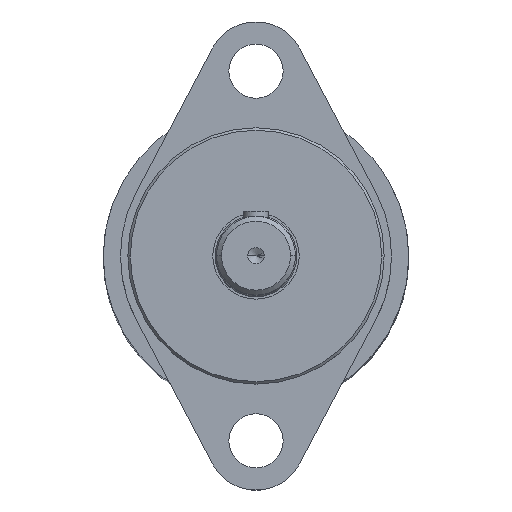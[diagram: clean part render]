
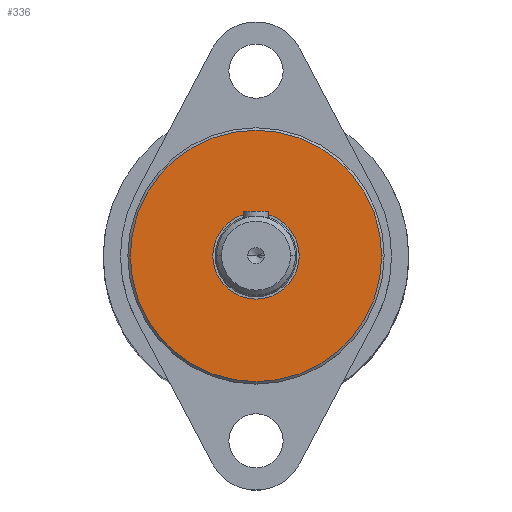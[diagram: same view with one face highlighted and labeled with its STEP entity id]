
A CAD part, top view. The second image highlights one B-rep face of the part: STEP entity #336.
In plain terms, the highlighted planar face has unit normal (0, 0, 1).
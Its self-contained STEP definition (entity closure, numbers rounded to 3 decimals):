
#9 = CARTESIAN_POINT ( 'NONE',  ( 25.5, 0., -31.5 ) ) ;
#15 = ORIENTED_EDGE ( 'NONE', *, *, #338, .F. ) ;
#80 = AXIS2_PLACEMENT_3D ( 'NONE', #1081, #1232, #1785 ) ;
#110 = DIRECTION ( 'NONE',  ( 0., 0., 1. ) ) ;
#158 = DIRECTION ( 'NONE',  ( 0., 0., 1. ) ) ;
#226 = EDGE_LOOP ( 'NONE', ( #15, #1332 ) ) ;
#283 = AXIS2_PLACEMENT_3D ( 'NONE', #484, #1462, #631 ) ;
#302 = DIRECTION ( 'NONE',  ( 0., 0., 1. ) ) ;
#316 = AXIS2_PLACEMENT_3D ( 'NONE', #1029, #158, #1289 ) ;
#327 = CARTESIAN_POINT ( 'NONE',  ( 0., 0., -31.5 ) ) ;
#336 = ADVANCED_FACE ( 'NONE', ( #1135, #1558 ), #948, .F. ) ;
#338 = EDGE_CURVE ( 'NONE', #486, #1313, #804, .T. ) ;
#419 = CARTESIAN_POINT ( 'NONE',  ( 8.766, 0., -31.5 ) ) ;
#444 = VERTEX_POINT ( 'NONE', #551 ) ;
#484 = CARTESIAN_POINT ( 'NONE',  ( 0., 0., -31.5 ) ) ;
#486 = VERTEX_POINT ( 'NONE', #419 ) ;
#551 = CARTESIAN_POINT ( 'NONE',  ( -25.5, 0., -31.5 ) ) ;
#585 = CIRCLE ( 'NONE', #283, 25.5 ) ;
#588 = DIRECTION ( 'NONE',  ( 1., 0., 0. ) ) ;
#631 = DIRECTION ( 'NONE',  ( 1., 0., 0. ) ) ;
#688 = AXIS2_PLACEMENT_3D ( 'NONE', #327, #302, #588 ) ;
#758 = AXIS2_PLACEMENT_3D ( 'NONE', #1506, #110, #1091 ) ;
#804 = CIRCLE ( 'NONE', #758, 8.766 ) ;
#948 = PLANE ( 'NONE',  #80 ) ;
#970 = CIRCLE ( 'NONE', #316, 8.766 ) ;
#1029 = CARTESIAN_POINT ( 'NONE',  ( 0., 0., -31.5 ) ) ;
#1081 = CARTESIAN_POINT ( 'NONE',  ( 0., 8.766, -31.5 ) ) ;
#1091 = DIRECTION ( 'NONE',  ( 1., 0., 0. ) ) ;
#1135 = FACE_BOUND ( 'NONE', #226, .T. ) ;
#1188 = CARTESIAN_POINT ( 'NONE',  ( -8.766, 0., -31.5 ) ) ;
#1207 = VERTEX_POINT ( 'NONE', #9 ) ;
#1230 = EDGE_CURVE ( 'NONE', #1313, #486, #970, .T. ) ;
#1232 = DIRECTION ( 'NONE',  ( 0., 0., -1. ) ) ;
#1268 = ORIENTED_EDGE ( 'NONE', *, *, #1283, .T. ) ;
#1283 = EDGE_CURVE ( 'NONE', #444, #1207, #1716, .T. ) ;
#1289 = DIRECTION ( 'NONE',  ( 1., 0., 0. ) ) ;
#1313 = VERTEX_POINT ( 'NONE', #1188 ) ;
#1332 = ORIENTED_EDGE ( 'NONE', *, *, #1230, .F. ) ;
#1351 = EDGE_CURVE ( 'NONE', #1207, #444, #585, .T. ) ;
#1462 = DIRECTION ( 'NONE',  ( 0., 0., 1. ) ) ;
#1506 = CARTESIAN_POINT ( 'NONE',  ( 0., 0., -31.5 ) ) ;
#1558 = FACE_OUTER_BOUND ( 'NONE', #1642, .T. ) ;
#1642 = EDGE_LOOP ( 'NONE', ( #1268, #1767 ) ) ;
#1716 = CIRCLE ( 'NONE', #688, 25.5 ) ;
#1767 = ORIENTED_EDGE ( 'NONE', *, *, #1351, .T. ) ;
#1785 = DIRECTION ( 'NONE',  ( -1., 0., 0. ) ) ;
